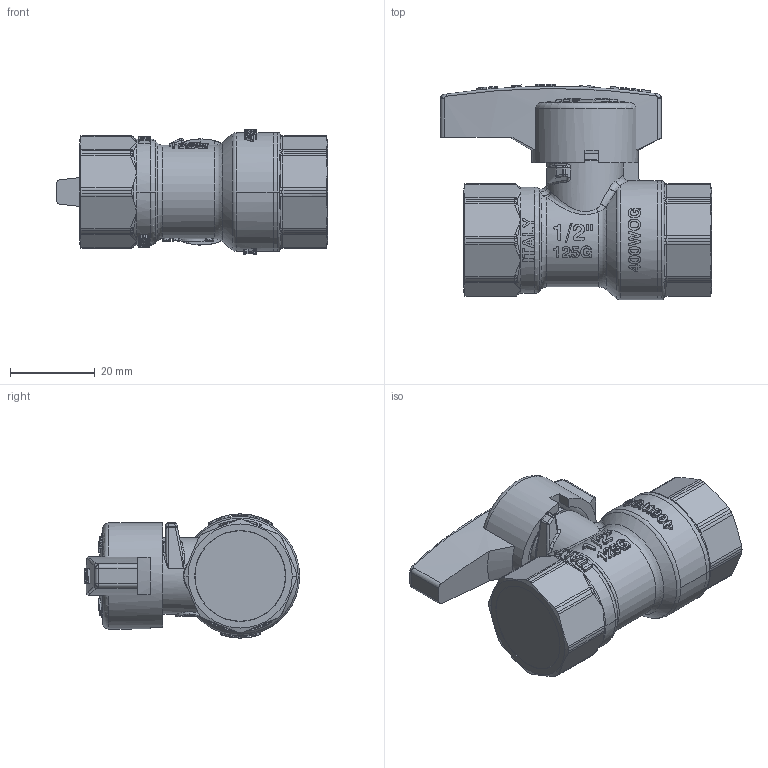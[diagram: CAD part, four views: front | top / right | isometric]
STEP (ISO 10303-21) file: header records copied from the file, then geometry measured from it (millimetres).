
FILE_DESCRIPTION((''),'2;1');
FILE_NAME('T205TD_1-2_ASM','2022-05-20T09:35:34',('Sergio.Dandrea'),(''),'CREO PARAMETRIC BY PTC INC, 2021164','CREO PARAMETRIC BY PTC INC, 2021164','');
FILE_SCHEMA(('CONFIG_CONTROL_DESIGN'));
Products named in the file (12): 13017; 87190; OR_105_6_5X1_45; ASTA_50-1-2_OR_ASM; 87191; 13018; SEDE_PTFE_F10; 77143; 88317; VITE_TESTA_CIL_PH_M4X7; AN_PTFE_SF_15; T205TD_1-2_ASM
Assembly tree (13 placements, depth 3):
  T205TD_1-2_ASM
    13017
    ASTA_50-1-2_OR_ASM
      87190
      OR_105_6_5X1_45  x2
    87191
    13018
    SEDE_PTFE_F10  x2
    77143
    88317
    VITE_TESTA_CIL_PH_M4X7
    AN_PTFE_SF_15
Bounding box: 63.8 x 50.7 x 29.2 mm (x, y, z)
Volume: 27642.2 mm3; surface area: 25922.7 mm2
Topology: 12 solids, 22 shells, 2139 faces, 5770 edges, 3737 vertices
Faces by surface type: extrusion 1159, plane 406, cylinder 247, cone 104, bspline 99, torus 79, sphere 29, revolution 16
Entity records: 82274 total; most frequent: CARTESIAN_POINT 34755, ORIENTED_EDGE 11390, DIRECTION 6285, EDGE_CURVE 5720, B_SPLINE_CURVE_WITH_KNOTS 4291, VERTEX_POINT 3732, VECTOR 3011, EDGE_LOOP 2221
